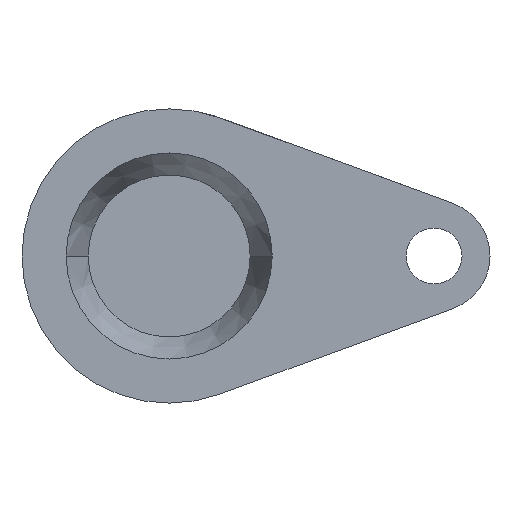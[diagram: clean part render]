
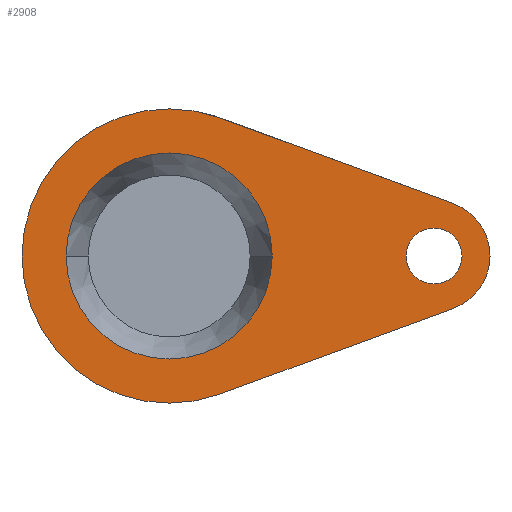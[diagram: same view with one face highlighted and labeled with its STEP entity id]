
A CAD part, front view. The second image highlights one B-rep face of the part: STEP entity #2908.
In plain terms, the highlighted planar face has unit normal (0, -1, 0).
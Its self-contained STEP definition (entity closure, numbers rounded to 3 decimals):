
#60 = AXIS2_PLACEMENT_3D ( 'NONE', #2209, #3115, #3387 ) ;
#94 = DIRECTION ( 'NONE',  ( 0., 1., 0. ) ) ;
#120 = DIRECTION ( 'NONE',  ( 0., 1., 0. ) ) ;
#203 = VECTOR ( 'NONE', #3564, 1000. ) ;
#204 = PLANE ( 'NONE',  #3714 ) ;
#255 = ORIENTED_EDGE ( 'NONE', *, *, #2644, .T. ) ;
#366 = EDGE_LOOP ( 'NONE', ( #255, #4329 ) ) ;
#412 = CARTESIAN_POINT ( 'NONE',  ( 0., -33., 0. ) ) ;
#540 = DIRECTION ( 'NONE',  ( 0., 1., 0. ) ) ;
#546 = EDGE_CURVE ( 'NONE', #3141, #4551, #1112, .T. ) ;
#605 = CIRCLE ( 'NONE', #60, 9.5 ) ;
#657 = CARTESIAN_POINT ( 'NONE',  ( 90., -33., 0. ) ) ;
#690 = EDGE_CURVE ( 'NONE', #2016, #2691, #2902, .T. ) ;
#710 = AXIS2_PLACEMENT_3D ( 'NONE', #1294, #540, #3531 ) ;
#920 = VERTEX_POINT ( 'NONE', #3029 ) ;
#930 = VERTEX_POINT ( 'NONE', #1216 ) ;
#936 = DIRECTION ( 'NONE',  ( 0., 1., 0. ) ) ;
#1112 = CIRCLE ( 'NONE', #1655, 35. ) ;
#1167 = CARTESIAN_POINT ( 'NONE',  ( 109., -33., 0. ) ) ;
#1175 = LINE ( 'NONE', #3383, #3260 ) ;
#1216 = CARTESIAN_POINT ( 'NONE',  ( 80.5, -33., 0. ) ) ;
#1228 = DIRECTION ( 'NONE',  ( 0.939, 0., -0.344 ) ) ;
#1248 = EDGE_LOOP ( 'NONE', ( #3725, #2983 ) ) ;
#1272 = CARTESIAN_POINT ( 'NONE',  ( 35., -33., 0. ) ) ;
#1294 = CARTESIAN_POINT ( 'NONE',  ( 90., -33., 0. ) ) ;
#1301 = CARTESIAN_POINT ( 'NONE',  ( 90., -33., 0. ) ) ;
#1629 = FACE_BOUND ( 'NONE', #366, .T. ) ;
#1655 = AXIS2_PLACEMENT_3D ( 'NONE', #3460, #94, #2694 ) ;
#1660 = CARTESIAN_POINT ( 'NONE',  ( 99.5, -33., 0. ) ) ;
#1667 = LINE ( 'NONE', #1691, #203 ) ;
#1691 = CARTESIAN_POINT ( 'NONE',  ( 17.222, -33., -46.94 ) ) ;
#1693 = FACE_BOUND ( 'NONE', #1248, .T. ) ;
#1917 = CIRCLE ( 'NONE', #2620, 50. ) ;
#2005 = DIRECTION ( 'NONE',  ( 0., -1., 0. ) ) ;
#2016 = VERTEX_POINT ( 'NONE', #1167 ) ;
#2066 = EDGE_CURVE ( 'NONE', #2566, #920, #1917, .T. ) ;
#2209 = CARTESIAN_POINT ( 'NONE',  ( 90., -33., 0. ) ) ;
#2238 = VERTEX_POINT ( 'NONE', #2435 ) ;
#2391 = EDGE_CURVE ( 'NONE', #930, #3909, #4340, .T. ) ;
#2435 = CARTESIAN_POINT ( 'NONE',  ( 96.544, -33., 17.837 ) ) ;
#2465 = ORIENTED_EDGE ( 'NONE', *, *, #2066, .T. ) ;
#2533 = AXIS2_PLACEMENT_3D ( 'NONE', #412, #120, #4556 ) ;
#2563 = CIRCLE ( 'NONE', #3434, 19. ) ;
#2566 = VERTEX_POINT ( 'NONE', #3675 ) ;
#2620 = AXIS2_PLACEMENT_3D ( 'NONE', #3894, #4282, #4628 ) ;
#2639 = CARTESIAN_POINT ( 'NONE',  ( 96.544, -33., -17.837 ) ) ;
#2644 = EDGE_CURVE ( 'NONE', #4551, #3141, #4662, .T. ) ;
#2691 = VERTEX_POINT ( 'NONE', #2639 ) ;
#2694 = DIRECTION ( 'NONE',  ( -1., 0., 0. ) ) ;
#2781 = CARTESIAN_POINT ( 'NONE',  ( 50., -33., 0. ) ) ;
#2822 = DIRECTION ( 'NONE',  ( 1., 0., 0. ) ) ;
#2902 = CIRCLE ( 'NONE', #710, 19. ) ;
#2908 = ADVANCED_FACE ( 'NONE', ( #1629, #1693, #3476 ), #204, .T. ) ;
#2983 = ORIENTED_EDGE ( 'NONE', *, *, #4496, .T. ) ;
#3029 = CARTESIAN_POINT ( 'NONE',  ( 17.222, -33., -46.94 ) ) ;
#3115 = DIRECTION ( 'NONE',  ( 0., 1., 0. ) ) ;
#3118 = EDGE_CURVE ( 'NONE', #2566, #2238, #1175, .T. ) ;
#3141 = VERTEX_POINT ( 'NONE', #4694 ) ;
#3260 = VECTOR ( 'NONE', #1228, 1000. ) ;
#3383 = CARTESIAN_POINT ( 'NONE',  ( 17.222, -33., 46.94 ) ) ;
#3387 = DIRECTION ( 'NONE',  ( -1., 0., 0. ) ) ;
#3434 = AXIS2_PLACEMENT_3D ( 'NONE', #1301, #936, #3563 ) ;
#3460 = CARTESIAN_POINT ( 'NONE',  ( 0., -33., 0. ) ) ;
#3476 = FACE_OUTER_BOUND ( 'NONE', #4266, .T. ) ;
#3531 = DIRECTION ( 'NONE',  ( -1., 0., 0. ) ) ;
#3536 = EDGE_CURVE ( 'NONE', #2691, #920, #1667, .T. ) ;
#3563 = DIRECTION ( 'NONE',  ( -1., 0., 0. ) ) ;
#3564 = DIRECTION ( 'NONE',  ( -0.939, 0., -0.344 ) ) ;
#3675 = CARTESIAN_POINT ( 'NONE',  ( 17.222, -33., 46.94 ) ) ;
#3714 = AXIS2_PLACEMENT_3D ( 'NONE', #2781, #2005, #2822 ) ;
#3725 = ORIENTED_EDGE ( 'NONE', *, *, #2391, .T. ) ;
#3881 = AXIS2_PLACEMENT_3D ( 'NONE', #657, #4439, #4363 ) ;
#3894 = CARTESIAN_POINT ( 'NONE',  ( 0., -33., 0. ) ) ;
#3909 = VERTEX_POINT ( 'NONE', #1660 ) ;
#4197 = EDGE_CURVE ( 'NONE', #2238, #2016, #2563, .T. ) ;
#4244 = ORIENTED_EDGE ( 'NONE', *, *, #4197, .F. ) ;
#4261 = ORIENTED_EDGE ( 'NONE', *, *, #3536, .F. ) ;
#4266 = EDGE_LOOP ( 'NONE', ( #2465, #4261, #4557, #4244, #4572 ) ) ;
#4282 = DIRECTION ( 'NONE',  ( 0., -1., 0. ) ) ;
#4329 = ORIENTED_EDGE ( 'NONE', *, *, #546, .T. ) ;
#4340 = CIRCLE ( 'NONE', #3881, 9.5 ) ;
#4363 = DIRECTION ( 'NONE',  ( -1., 0., 0. ) ) ;
#4439 = DIRECTION ( 'NONE',  ( 0., 1., 0. ) ) ;
#4496 = EDGE_CURVE ( 'NONE', #3909, #930, #605, .T. ) ;
#4551 = VERTEX_POINT ( 'NONE', #1272 ) ;
#4556 = DIRECTION ( 'NONE',  ( -1., 0., 0. ) ) ;
#4557 = ORIENTED_EDGE ( 'NONE', *, *, #690, .F. ) ;
#4572 = ORIENTED_EDGE ( 'NONE', *, *, #3118, .F. ) ;
#4628 = DIRECTION ( 'NONE',  ( 1., 0., 0. ) ) ;
#4662 = CIRCLE ( 'NONE', #2533, 35. ) ;
#4694 = CARTESIAN_POINT ( 'NONE',  ( -35., -33., 0. ) ) ;
